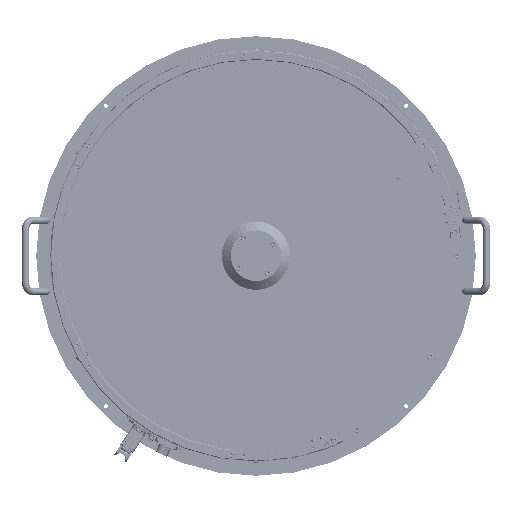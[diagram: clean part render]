
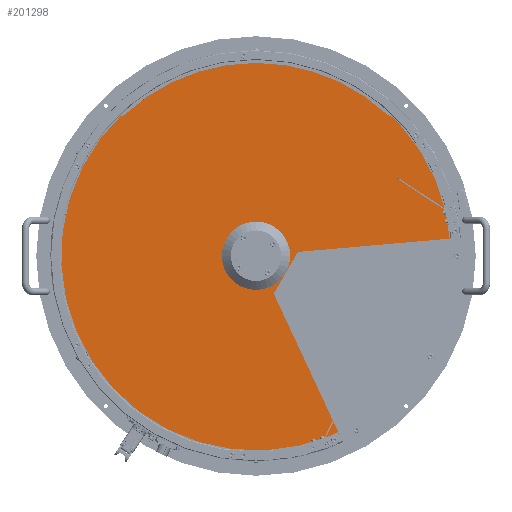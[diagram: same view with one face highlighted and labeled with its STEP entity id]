
A CAD part, top view. The second image highlights one B-rep face of the part: STEP entity #201298.
In plain terms, the highlighted planar face has unit normal (0, 0, 1) as drawn and (0, 0, -1) by its records, which use the part's own axes.
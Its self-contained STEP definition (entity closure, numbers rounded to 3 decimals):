
#27818 = DIRECTION ( 'NONE',  ( 1., 0., 0. ) ) ;
#29621 = AXIS2_PLACEMENT_3D ( 'NONE', #406423, #352927, #592303 ) ;
#31602 = ORIENTED_EDGE ( 'NONE', *, *, #43174, .T. ) ;
#37255 = CARTESIAN_POINT ( 'NONE',  ( -328., 0., 0. ) ) ;
#43174 = EDGE_CURVE ( 'NONE', #416047, #586584, #593902, .T. ) ;
#57323 = AXIS2_PLACEMENT_3D ( 'NONE', #376510, #568662, #615827 ) ;
#69674 = CIRCLE ( 'NONE', #29621, 328. ) ;
#77779 = AXIS2_PLACEMENT_3D ( 'NONE', #479959, #281633, #388567 ) ;
#80989 = EDGE_LOOP ( 'NONE', ( #303768, #31602 ) ) ;
#100138 = AXIS2_PLACEMENT_3D ( 'NONE', #364286, #169332, #27818 ) ;
#147789 = CIRCLE ( 'NONE', #77779, 328. ) ;
#169332 = DIRECTION ( 'NONE',  ( 0., 0., 1. ) ) ;
#170742 = CARTESIAN_POINT ( 'NONE',  ( 328., 0., 0. ) ) ;
#181646 = ORIENTED_EDGE ( 'NONE', *, *, #255231, .F. ) ;
#184536 = FACE_BOUND ( 'NONE', #80989, .T. ) ;
#201298 = ADVANCED_FACE ( 'NONE', ( #574849, #184536 ), #335446, .F. ) ;
#255231 = EDGE_CURVE ( 'NONE', #489564, #341028, #69674, .T. ) ;
#281633 = DIRECTION ( 'NONE',  ( 0., 0., 1. ) ) ;
#303768 = ORIENTED_EDGE ( 'NONE', *, *, #546818, .T. ) ;
#335446 = PLANE ( 'NONE',  #57323 ) ;
#341028 = VERTEX_POINT ( 'NONE', #170742 ) ;
#352927 = DIRECTION ( 'NONE',  ( 0., 0., 1. ) ) ;
#364286 = CARTESIAN_POINT ( 'NONE',  ( 0., 0., 0. ) ) ;
#365024 = DIRECTION ( 'NONE',  ( 0., 0., 1. ) ) ;
#365860 = CIRCLE ( 'NONE', #375738, 42.6 ) ;
#374284 = DIRECTION ( 'NONE',  ( 1., 0., 0. ) ) ;
#375738 = AXIS2_PLACEMENT_3D ( 'NONE', #607482, #365024, #374284 ) ;
#376510 = CARTESIAN_POINT ( 'NONE',  ( 0., 0., 0. ) ) ;
#382144 = EDGE_CURVE ( 'NONE', #341028, #489564, #147789, .T. ) ;
#388567 = DIRECTION ( 'NONE',  ( 1., 0., 0. ) ) ;
#393240 = EDGE_LOOP ( 'NONE', ( #181646, #568566 ) ) ;
#406423 = CARTESIAN_POINT ( 'NONE',  ( 0., 0., 0. ) ) ;
#416047 = VERTEX_POINT ( 'NONE', #481834 ) ;
#479959 = CARTESIAN_POINT ( 'NONE',  ( 0., 0., 0. ) ) ;
#481834 = CARTESIAN_POINT ( 'NONE',  ( 42.6, 0., 0. ) ) ;
#489564 = VERTEX_POINT ( 'NONE', #37255 ) ;
#500036 = CARTESIAN_POINT ( 'NONE',  ( -42.6, 0., 0. ) ) ;
#546818 = EDGE_CURVE ( 'NONE', #586584, #416047, #365860, .T. ) ;
#568566 = ORIENTED_EDGE ( 'NONE', *, *, #382144, .F. ) ;
#568662 = DIRECTION ( 'NONE',  ( 0., 0., 1. ) ) ;
#574849 = FACE_OUTER_BOUND ( 'NONE', #393240, .T. ) ;
#586584 = VERTEX_POINT ( 'NONE', #500036 ) ;
#592303 = DIRECTION ( 'NONE',  ( 1., 0., 0. ) ) ;
#593902 = CIRCLE ( 'NONE', #100138, 42.6 ) ;
#607482 = CARTESIAN_POINT ( 'NONE',  ( 0., 0., 0. ) ) ;
#615827 = DIRECTION ( 'NONE',  ( 1., 0., 0. ) ) ;
